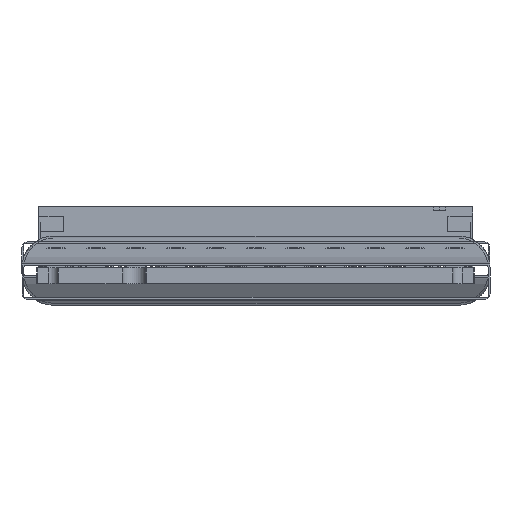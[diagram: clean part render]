
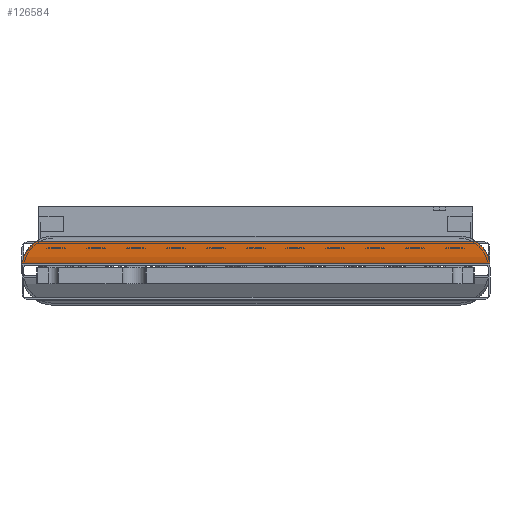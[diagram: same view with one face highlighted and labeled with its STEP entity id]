
A CAD part, front view. The second image highlights one B-rep face of the part: STEP entity #126584.
In plain terms, the highlighted free-form (B-spline) face has degree [3, 1] with [4, 2] control points.
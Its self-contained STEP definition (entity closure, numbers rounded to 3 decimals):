
#126468 = VERTEX_POINT('',#126469);
#126469 = CARTESIAN_POINT('',(23.586,0.,
    0.201));
#126476 = EDGE_CURVE('',#126468,#126477,#126479,.T.);
#126477 = VERTEX_POINT('',#126478);
#126478 = CARTESIAN_POINT('',(0.013,0.,
    0.201));
#126479 = LINE('',#126480,#126481);
#126480 = CARTESIAN_POINT('',(24.829,0.,
    0.201));
#126481 = VECTOR('',#126482,1.);
#126482 = DIRECTION('',(-1.,-0.,-0.));
#126538 = EDGE_CURVE('',#126539,#126541,#126543,.T.);
#126539 = VERTEX_POINT('',#126540);
#126540 = CARTESIAN_POINT('',(22.872,5.989,
    1.34));
#126541 = VERTEX_POINT('',#126542);
#126542 = CARTESIAN_POINT('',(0.727,5.989,
    1.34));
#126543 = LINE('',#126544,#126545);
#126544 = CARTESIAN_POINT('',(24.829,5.989,
    1.34));
#126545 = VECTOR('',#126546,1.);
#126546 = DIRECTION('',(-1.,-0.,-0.));
#126584 = ADVANCED_FACE('',(#126585),#126619,.F.);
#126585 = FACE_BOUND('',#126586,.F.);
#126586 = EDGE_LOOP('',(#126587,#126588,#126603,#126604));
#126587 = ORIENTED_EDGE('',*,*,#126476,.T.);
#126588 = ORIENTED_EDGE('',*,*,#126589,.F.);
#126589 = EDGE_CURVE('',#126541,#126477,#126590,.T.);
#126590 = B_SPLINE_CURVE_WITH_KNOTS('',3,(#126591,#126592,#126593,
    #126594,#126595,#126596,#126597,#126598,#126599,#126600,#126601,
    #126602),.UNSPECIFIED.,.F.,.F.,(4,2,2,2,2,4),(0.,0.001,
    0.002,0.003,0.005,
    0.006),.UNSPECIFIED.);
#126591 = CARTESIAN_POINT('',(0.727,5.989,
    1.34));
#126592 = CARTESIAN_POINT('',(0.601,5.774,
    1.259));
#126593 = CARTESIAN_POINT('',(0.511,5.546,
    1.177));
#126594 = CARTESIAN_POINT('',(0.363,5.077,
    1.02));
#126595 = CARTESIAN_POINT('',(0.306,4.834,
    0.944));
#126596 = CARTESIAN_POINT('',(0.168,4.099,
    0.732));
#126597 = CARTESIAN_POINT('',(0.118,3.598,
    0.611));
#126598 = CARTESIAN_POINT('',(0.051,2.582,
    0.413));
#126599 = CARTESIAN_POINT('',(0.035,2.069,
    0.338));
#126600 = CARTESIAN_POINT('',(0.016,1.037,
    0.233));
#126601 = CARTESIAN_POINT('',(0.013,0.519,
    0.205));
#126602 = CARTESIAN_POINT('',(0.013,0.,
    0.201));
#126603 = ORIENTED_EDGE('',*,*,#126538,.F.);
#126604 = ORIENTED_EDGE('',*,*,#126605,.T.);
#126605 = EDGE_CURVE('',#126539,#126468,#126606,.T.);
#126606 = B_SPLINE_CURVE_WITH_KNOTS('',3,(#126607,#126608,#126609,
    #126610,#126611,#126612,#126613,#126614,#126615,#126616,#126617,
    #126618),.UNSPECIFIED.,.F.,.F.,(4,2,2,2,2,4),(0.,0.001,
    0.002,0.003,0.005,
    0.006),.UNSPECIFIED.);
#126607 = CARTESIAN_POINT('',(22.872,5.989,
    1.34));
#126608 = CARTESIAN_POINT('',(22.997,5.774,
    1.259));
#126609 = CARTESIAN_POINT('',(23.088,5.546,
    1.177));
#126610 = CARTESIAN_POINT('',(23.236,5.077,
    1.02));
#126611 = CARTESIAN_POINT('',(23.293,4.834,
    0.944));
#126612 = CARTESIAN_POINT('',(23.431,4.099,
    0.732));
#126613 = CARTESIAN_POINT('',(23.481,3.598,
    0.611));
#126614 = CARTESIAN_POINT('',(23.548,2.582,
    0.413));
#126615 = CARTESIAN_POINT('',(23.564,2.069,
    0.338));
#126616 = CARTESIAN_POINT('',(23.583,1.037,
    0.233));
#126617 = CARTESIAN_POINT('',(23.586,0.519,
    0.205));
#126618 = CARTESIAN_POINT('',(23.586,0.,
    0.201));
#126619 = B_SPLINE_SURFACE_WITH_KNOTS('',3,1,(
    (#126620,#126621)
    ,(#126622,#126623)
    ,(#126624,#126625)
    ,(#126626,#126627
    )),.UNSPECIFIED.,.F.,.F.,.F.,(4,4),(2,2),(0.095,
    0.957),(0.,1.),.PIECEWISE_BEZIER_KNOTS.);
#126620 = CARTESIAN_POINT('',(23.728,5.989,
    1.34));
#126621 = CARTESIAN_POINT('',(-0.129,5.989,
    1.34));
#126622 = CARTESIAN_POINT('',(23.728,4.031,
    0.599));
#126623 = CARTESIAN_POINT('',(-0.129,4.031,
    0.599));
#126624 = CARTESIAN_POINT('',(23.728,2.031,
    0.219));
#126625 = CARTESIAN_POINT('',(-0.129,2.031,
    0.219));
#126626 = CARTESIAN_POINT('',(23.728,0.,
    0.201));
#126627 = CARTESIAN_POINT('',(-0.129,0.,
    0.201));
